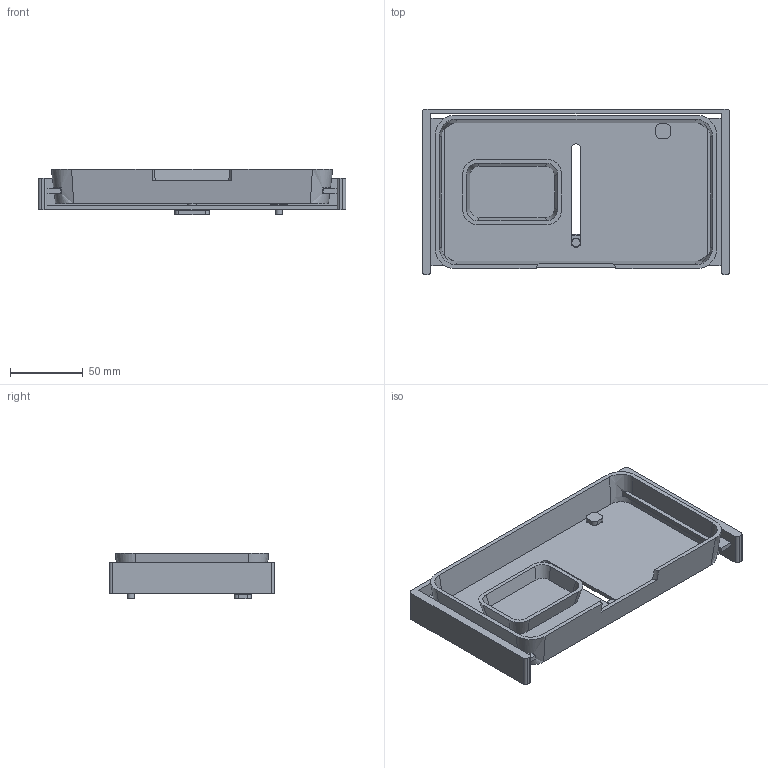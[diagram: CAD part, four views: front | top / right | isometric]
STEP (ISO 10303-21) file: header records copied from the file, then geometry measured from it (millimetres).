
FILE_DESCRIPTION(('Open CASCADE Model'),'2;1');
FILE_NAME('Open CASCADE Shape Model','2026-09-13T15:24:52',('Author'),( 'Open CASCADE'),'Open CASCADE STEP processor 7.9','build123d', 'Unknown');
FILE_SCHEMA(('AUTOMOTIVE_DESIGN { 1 0 10303 214 1 1 1 1 }'));
Length unit declared in the file: millimetre
Products named in the file (6): COMPOUND; SOLID
Assembly tree (5 placements, depth 2):
  COMPOUND
    SOLID
    SOLID
    SOLID
    SOLID
    SOLID
Bounding box: 212 x 114 x 31.6 mm (x, y, z)
Volume: 149304.1 mm3; surface area: 109575 mm2
Topology: 5 solids, 5 shells, 152 faces, 421 edges, 280 vertices
Faces by surface type: plane 81, bspline 36, cylinder 31, cone 2, extrusion 2
Full cylindrical faces by diameter (mm): 3.4 x4, 4.8 x1, 5.6 x3, 6.4 x1
Entity records: 12512 total; most frequent: CARTESIAN_POINT 4368, DIRECTION 1357, VECTOR 850, LINE 848, ORIENTED_EDGE 842, PCURVE 842, DEFINITIONAL_REPRESENTATION 842, EDGE_CURVE 421
